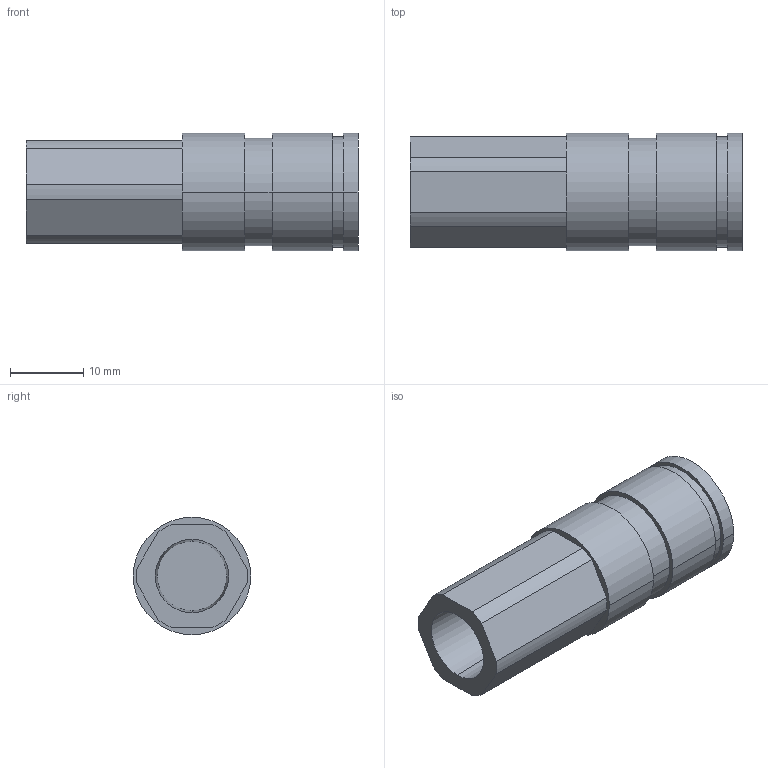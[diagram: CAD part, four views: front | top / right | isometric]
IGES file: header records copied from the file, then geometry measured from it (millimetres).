
Global section: file name: No Iges File Name specified; native system: Autodesk Inventor 2009; preprocessor: AutoDesk Inventor Iges Exporter R2009; author: y-shimohigashi; date: 20080702.152737; units: millimetre
Bounding box: 45.2 x 16 x 16 mm (x, y, z)
Volume: 6400.3 mm3; surface area: 3451.1 mm2
Topology: 1 solids, 1 shells, 35 faces, 78 edges, 52 vertices
Faces by surface type: cylinder 16, plane 15, revolution 4
